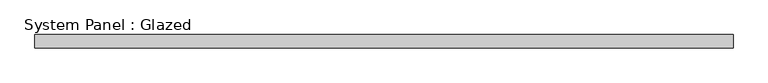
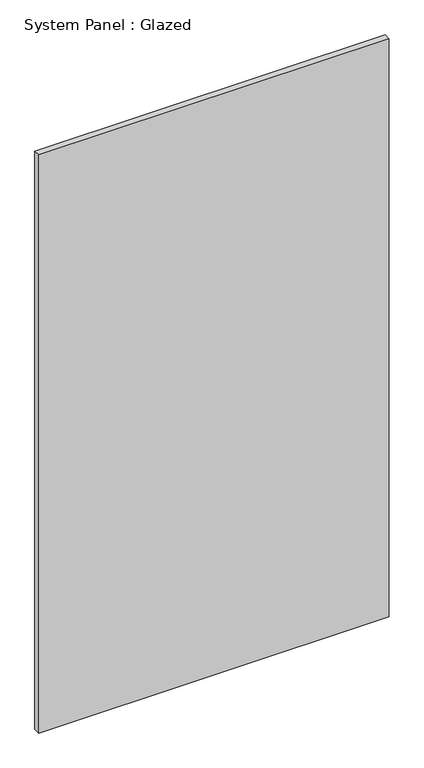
"""IFC4 building model written with IfcOpenShell, lengths in millimetres: plate geometry, System Panel : Glazed."""

from ifc_helpers import new_model, si_unit, origin, origin_with_axes, place, context, project, spatial, polyline, outline, extrude, source, transform, mapped, element, save


def system_panel_glazed_20ddfeda(model_context):
    return source(origin(), model_context, "Body", "SweptSolid", [
        extrude(outline(polyline([(672.0416667, 19.05), (-672.0416667, 19.05), (-672.0416667, 44.45), (672.0416667, 44.45), (672.0416667, 19.05)])), origin_with_axes(), (0.0, 0.0, 1.0), 2343.15),
    ])


if __name__ == "__main__":
    model = new_model("IFC4")
    model_context = context("Model", 3, world=origin())
    ifc_project = project(units=[si_unit("LENGTHUNIT", "METRE", prefix="MILLI")], contexts=[model_context])
    site = spatial("IfcSite", under=ifc_project)
    building = spatial("IfcBuilding", under=site)
    placement = place(None, origin())
    system_panel_glazed_shape = system_panel_glazed_20ddfeda(model_context)
    element("IfcPlate", 1, ObjectType="System Panel : Glazed", at=placement, inside=building, context=model_context, shape_type="MappedRepresentation", body=[
        mapped(system_panel_glazed_shape, transform((0.0, 0.0, 0.0), x_axis=(1.0, 0.0, 0.0), y_axis=(0.0, 1.0, 0.0), z_axis=(0.0, 0.0, 1.0))),
    ])
    save(model, "model.ifc")
